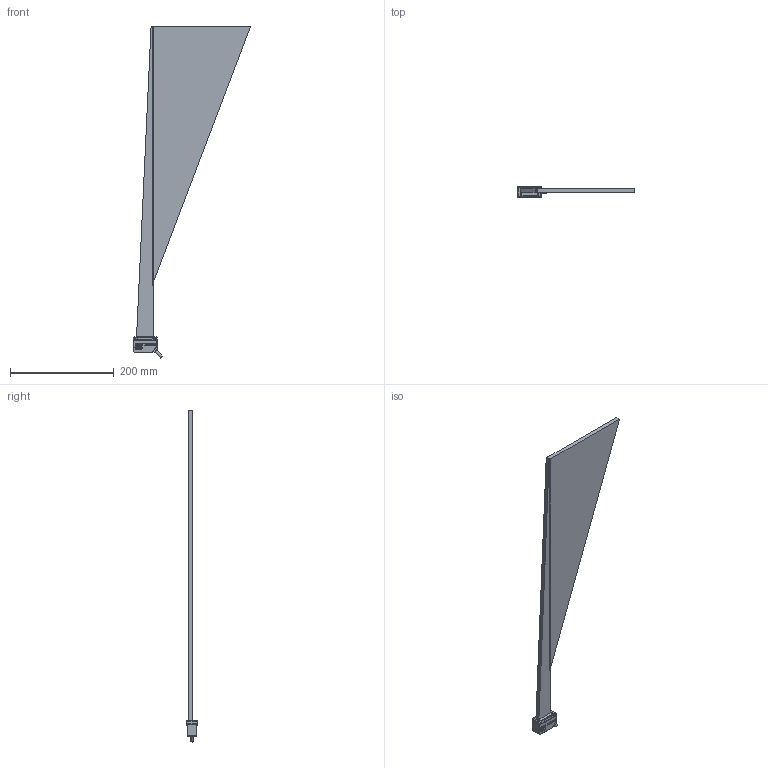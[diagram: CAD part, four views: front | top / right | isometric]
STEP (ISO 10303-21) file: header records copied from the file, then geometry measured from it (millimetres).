
FILE_DESCRIPTION (( 'STEP AP214' ), '1' );
FILE_NAME ('ILD1x20-500_6.STEP', '2025-11-05T11:30:01', ( '' ), ( '' ), 'SwSTEP 2.0', 'SolidWorks 2022', '' );
FILE_SCHEMA (( 'AUTOMOTIVE_DESIGN' ));
Length unit declared in the file: millimetre
Products named in the file (1): ILD1x20-500_6
Bounding box: 225.99 x 20 x 640.71 mm (x, y, z)
Volume: 492239.7 mm3; surface area: 147987.6 mm2
Topology: 10 solids, 10 shells, 2119 faces, 5575 edges, 3603 vertices
Faces by surface type: bspline 1001, plane 905, cylinder 144, torus 26, cone 23, sphere 20
Full cylindrical faces by diameter (mm): 0.7 x1, 0.8 x1, 1.2 x1, 1.6 x2, 2.4 x1, 2.5 x2, 3 x2, 5.4 x1, 7.5 x1, 8 x1
Entity records: 87498 total; most frequent: CARTESIAN_POINT 41452, ORIENTED_EDGE 10956, DIRECTION 6000, EDGE_CURVE 5478, VERTEX_POINT 3577, LINE 3100, VECTOR 3100, EDGE_LOOP 2327
